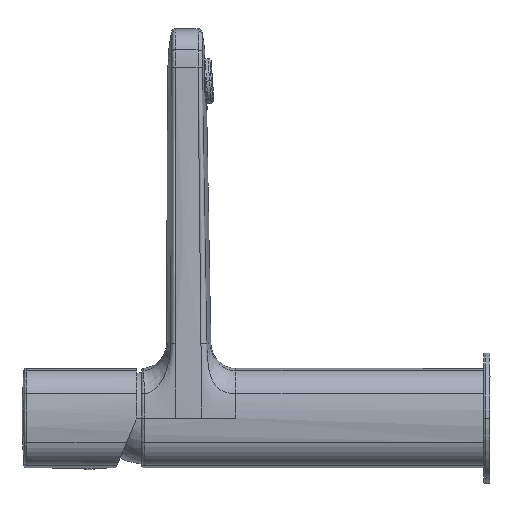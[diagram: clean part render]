
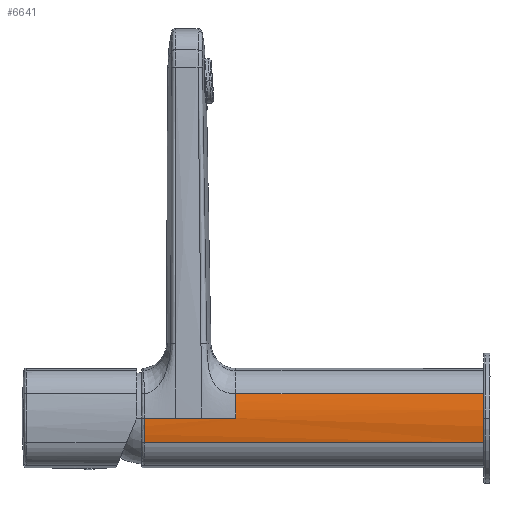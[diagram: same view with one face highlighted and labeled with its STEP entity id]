
A CAD part, left-side view. The second image highlights one B-rep face of the part: STEP entity #6641.
In plain terms, the highlighted cylindrical face has radius 45.001 mm (diameter 90.001 mm), a partial arc.
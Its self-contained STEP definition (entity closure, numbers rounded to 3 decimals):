
#729=CARTESIAN_POINT('',(25.001,0.,0.));
#730=DIRECTION('',(0.,1.,0.));
#731=DIRECTION('',(-0.976,0.,-0.218));
#732=AXIS2_PLACEMENT_3D('',#729,#730,#731);
#734=CARTESIAN_POINT('',(25.001,136.,0.));
#735=DIRECTION('',(0.,-1.,0.));
#736=DIRECTION('',(-1.,0.,0.001));
#737=AXIS2_PLACEMENT_3D('',#734,#735,#736);
#739=DIRECTION('',(0.,1.,0.));
#740=VECTOR('',#739,99.277);
#741=CARTESIAN_POINT('',(-18.915,0.,9.824));
#742=LINE('',#741,#740);
#753=DIRECTION('',(0.,1.,0.));
#754=VECTOR('',#753,136.);
#755=CARTESIAN_POINT('',(-18.915,0.,
-9.824));
#756=LINE('',#755,#754);
#894=CARTESIAN_POINT('',(-18.915,136.,-9.824));
#904=DIRECTION('',(0.,-1.,0.));
#905=VECTOR('',#904,12.638);
#906=CARTESIAN_POINT('',(-20.,136.,0.041));
#907=LINE('',#906,#905);
#918=CARTESIAN_POINT('',(-20.,136.,0.041));
#1018=DIRECTION('',(0.,-1.,0.));
#1019=VECTOR('',#1018,10.445);
#1020=CARTESIAN_POINT('',(-20.,123.362,
0.041));
#1021=LINE('',#1020,#1019);
#1027=CARTESIAN_POINT('',(-20.,123.362,
0.041));
#1451=CARTESIAN_POINT('',(25.001,99.277,0.));
#1452=DIRECTION('',(0.,1.,0.));
#1453=DIRECTION('',(-1.,0.,0.001));
#1454=AXIS2_PLACEMENT_3D('',#1451,#1452,#1453);
#1456=DIRECTION('',(0.,-1.,0.));
#1457=VECTOR('',#1456,13.64);
#1458=CARTESIAN_POINT('',(-20.,112.917,
0.041));
#1459=LINE('',#1458,#1457);
#2785=CARTESIAN_POINT('',(-18.915,99.277,9.824));
#2786=VERTEX_POINT('',#2785);
#2788=VERTEX_POINT('',#1027);
#2789=CARTESIAN_POINT('',(-20.,112.917,
0.041));
#2790=VERTEX_POINT('',#2789);
#2797=VERTEX_POINT('',#918);
#2802=VERTEX_POINT('',#894);
#2819=CARTESIAN_POINT('',(-20.,99.277,
0.041));
#2820=VERTEX_POINT('',#2819);
#2885=CARTESIAN_POINT('',(-18.915,0.,
9.824));
#2886=VERTEX_POINT('',#2885);
#2893=CARTESIAN_POINT('',(-18.915,0.,
-9.824));
#2894=VERTEX_POINT('',#2893);
#6620=CARTESIAN_POINT('',(25.001,67.748,0.));
#6621=DIRECTION('',(0.,1.,0.));
#6622=DIRECTION('',(-0.976,0.,-0.218));
#6623=AXIS2_PLACEMENT_3D('',#6620,#6621,#6622);
#6624=CYLINDRICAL_SURFACE('',#6623,45.001);
#6625=ORIENTED_EDGE('',*,*,#6438,.F.);
#6627=ORIENTED_EDGE('',*,*,#6626,.T.);
#6629=ORIENTED_EDGE('',*,*,#6628,.F.);
#6631=ORIENTED_EDGE('',*,*,#6630,.T.);
#6633=ORIENTED_EDGE('',*,*,#6632,.T.);
#6635=ORIENTED_EDGE('',*,*,#6634,.T.);
#6637=ORIENTED_EDGE('',*,*,#6636,.T.);
#6638=ORIENTED_EDGE('',*,*,#6605,.F.);
#6639=EDGE_LOOP('',(#6625,#6627,#6629,#6631,#6633,#6635,#6637,#6638));
#6640=FACE_OUTER_BOUND('',#6639,.F.);
#733=CIRCLE('',#732,45.001);
#738=CIRCLE('',#737,45.001);
#1455=CIRCLE('',#1454,45.001);
#6438=EDGE_CURVE('',#2894,#2886,#733,.T.);
#6605=EDGE_CURVE('',#2886,#2786,#742,.T.);
#6626=EDGE_CURVE('',#2894,#2802,#756,.T.);
#6628=EDGE_CURVE('',#2797,#2802,#738,.T.);
#6630=EDGE_CURVE('',#2797,#2788,#907,.T.);
#6632=EDGE_CURVE('',#2788,#2790,#1021,.T.);
#6634=EDGE_CURVE('',#2790,#2820,#1459,.T.);
#6636=EDGE_CURVE('',#2820,#2786,#1455,.T.);
#6641=ADVANCED_FACE('',(#6640),#6624,.T.);
